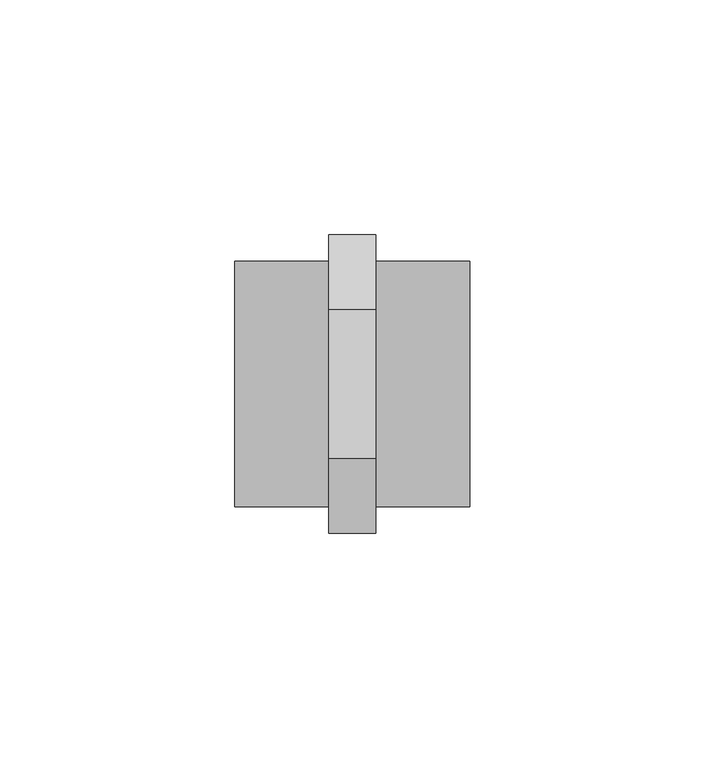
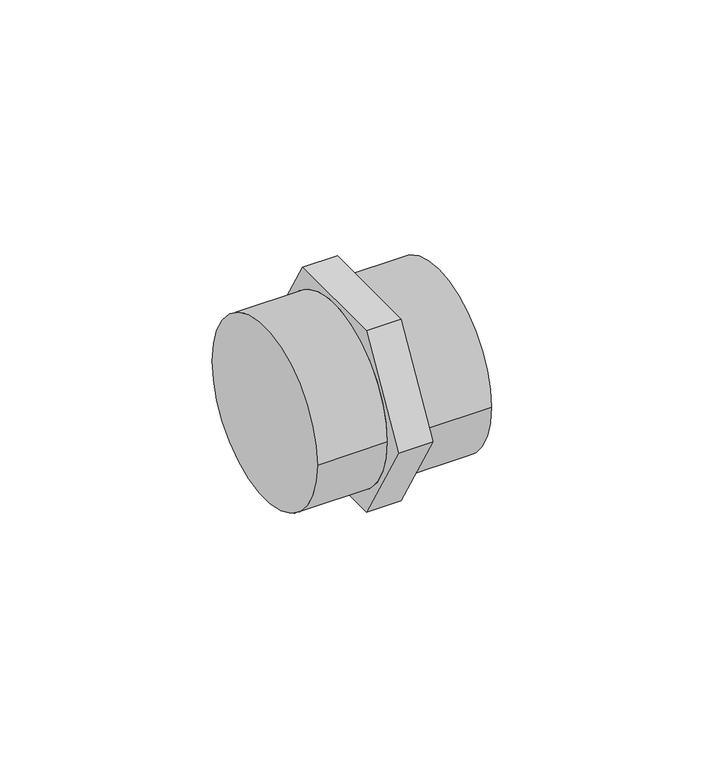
"""IFC4 building model written with IfcOpenShell, lengths in millimetres: pipe fitting geometry, 01011005 : Uniao Simples."""

import ifcopenshell
import ifcopenshell.guid

model = None  # the IFC model being written
_history = None  # IfcOwnerHistory: only IFC2X3 demands one
_inside = {}  # id of a spatial element -> (the spatial element, [elements in it])
_under = {}  # id of a project, library or spatial element -> (it, [spatial elements below it])
_declared = {}  # id of a project -> (the project, [libraries it declares])
_typed = {}  # id of a type object -> (the type object, [elements of that type])
_made_of = {}  # id of a material, layer set ... -> (it, [elements and type objects made of it])


def new_model(schema):
    """Start an empty IFC model of exactly this schema.

    Asked for "IFC4X3", IfcOpenShell would pick the latest addendum, in which some entities
    have other attributes; the version numbers below select the first issue.
    IFC2X3 requires an IfcOwnerHistory on every rooted entity: one is made here for all.
    """
    global model, _history
    if schema == "IFC4X3":
        model = ifcopenshell.file(schema_version=(4, 3, 0, 0))
    else:
        model = ifcopenshell.file(schema=schema)
    _inside.clear()
    _under.clear()
    _declared.clear()
    _typed.clear()
    _made_of.clear()
    _history = None
    if model.schema == "IFC2X3":
        org = make("IfcOrganization", Name="unknown")
        user = make(
            "IfcPersonAndOrganization",
            ThePerson=make("IfcPerson", FamilyName="unknown"),
            TheOrganization=org,
        )
        app = make(
            "IfcApplication",
            ApplicationDeveloper=org,
            Version="unknown",
            ApplicationFullName="unknown",
            ApplicationIdentifier="unknown",
        )
        _history = make(
            "IfcOwnerHistory",
            OwningUser=user,
            OwningApplication=app,
            ChangeAction="ADDED",
            CreationDate=0,
        )
    return model


def make(cls, **values):
    """One entity of the class cls with the attributes given. An attribute that is None is left unset."""
    return model.create_entity(
        cls, **{name: value for name, value in values.items() if value is not None}
    )


def rooted(cls, **values):
    """An entity with a GlobalId (a new one), such as an element, a storey or a relation."""
    return make(cls, GlobalId=ifcopenshell.guid.new(), OwnerHistory=_history, **values)


def si_unit(unit_type, name, prefix=None):
    """IfcSIUnit, for example si_unit("LENGTHUNIT", "METRE", prefix="MILLI")."""
    return make("IfcSIUnit", UnitType=unit_type, Prefix=prefix, Name=name)


def assignment(units):
    """IfcUnitAssignment: the units of a project."""
    return None if units is None else make("IfcUnitAssignment", Units=units)


def point(xyz):
    """IfcCartesianPoint."""
    return None if xyz is None else make("IfcCartesianPoint", Coordinates=xyz)


def direction(xyz):
    """IfcDirection."""
    return None if xyz is None else make("IfcDirection", DirectionRatios=xyz)


def frame(location, z_axis=None, x_axis=None):
    """IfcAxis2Placement3D, a coordinate frame: its origin and axes. An axis left out is left unset."""
    return make(
        "IfcAxis2Placement3D",
        Location=point(location),
        Axis=direction(z_axis),
        RefDirection=direction(x_axis),
    )


def origin():
    """The frame at (0, 0, 0) with its axes left unset."""
    return frame((0.0, 0.0, 0.0))


def place(relative_to, where):
    """IfcLocalPlacement: puts the frame where relative to a parent placement (None: the world)."""
    return make(
        "IfcLocalPlacement", PlacementRelTo=relative_to, RelativePlacement=where
    )


def context(
    kind, dimensions, precision=None, world=None, true_north=None, identifier=None
):
    """IfcGeometricRepresentationContext, for example the 3D "Model" context."""
    return make(
        "IfcGeometricRepresentationContext",
        ContextIdentifier=identifier,
        ContextType=kind,
        CoordinateSpaceDimension=dimensions,
        Precision=precision,
        WorldCoordinateSystem=world,
        TrueNorth=true_north,
    )


def project(units=None, contexts=None):
    """IfcProject with its units and contexts."""
    return rooted(
        "IfcProject",
        Name="project",
        RepresentationContexts=contexts,
        UnitsInContext=assignment(units),
    )


def spatial(cls, under=None, at=None, **own):
    """A site, building, storey or space (cls), placed at a placement, below another one or the project."""
    s = rooted(cls, ObjectPlacement=at, **own)
    if under is not None:
        _under.setdefault(under.id(), (under, []))[1].append(s)
    return s


def circle_curve(where, radius):
    """IfcCircle in the frame where."""
    return make("IfcCircle", Position=where, Radius=radius)


def shape(context_of_items, identifier, shape_type, items):
    """IfcShapeRepresentation: the items that make up one representation, for example the "Body"."""
    return make(
        "IfcShapeRepresentation",
        ContextOfItems=context_of_items,
        RepresentationIdentifier=identifier,
        RepresentationType=shape_type,
        Items=items,
    )


def source(mapping_origin, context_of_items, identifier, shape_type, items):
    """IfcRepresentationMap: a shape defined once, which mapped items show again and again."""
    return make(
        "IfcRepresentationMap",
        MappingOrigin=mapping_origin,
        MappedRepresentation=shape(context_of_items, identifier, shape_type, items),
    )


def transform(
    local_origin,
    x_axis=None,
    y_axis=None,
    z_axis=None,
    scale=None,
    scale2=None,
    scale3=None,
    uniform=True,
):
    """IfcCartesianTransformationOperator3D, or its non-uniform kind. x_axis, y_axis, z_axis: its Axis1, 2, 3."""
    if uniform:
        return make(
            "IfcCartesianTransformationOperator3D",
            Axis1=direction(x_axis),
            Axis2=direction(y_axis),
            LocalOrigin=point(local_origin),
            Scale=scale,
            Axis3=direction(z_axis),
        )
    return make(
        "IfcCartesianTransformationOperator3DnonUniform",
        Axis1=direction(x_axis),
        Axis2=direction(y_axis),
        LocalOrigin=point(local_origin),
        Scale=scale,
        Axis3=direction(z_axis),
        Scale2=scale2,
        Scale3=scale3,
    )


def mapped(mapping_source, mapping_target):
    """IfcMappedItem: shows the shape of a source again, moved by a transform."""
    return make(
        "IfcMappedItem", MappingSource=mapping_source, MappingTarget=mapping_target
    )


def made_of(thing, what):
    """Note that an element or type object is made of a material, layer set ...; save() writes the relation."""
    if what is not None:
        _made_of.setdefault(what.id(), (what, []))[1].append(thing)
    return thing


def element(
    cls,
    number,
    at=None,
    inside=None,
    cuts=None,
    type_object=None,
    material=None,
    context=None,
    identifier="Body",
    shape_type=None,
    held_by="IfcProductDefinitionShape",
    body=None,
    shapes=None,
    **own,
):
    """One element of the class cls, such as IfcWall. Its Tag is "e" and its number.

    at: its placement. inside: the storey or other place that contains it. cuts: it is an
    opening in that element (IfcRelVoidsElement). A single representation is given by context,
    identifier, shape_type and body (its items); several are given by shapes. held_by: the class
    of the entity that holds the representations. save() writes the other relations.
    """
    e = rooted(cls, Tag="e%d" % number, ObjectPlacement=at, **own)
    if body is not None:
        shapes = [shape(context, identifier, shape_type, body)]
    if shapes is not None:
        e.Representation = make(held_by, Representations=shapes)
    if inside is not None:
        _inside.setdefault(inside.id(), (inside, []))[1].append(e)
    if cuts is not None:
        rooted(
            "IfcRelVoidsElement", RelatingBuildingElement=cuts, RelatedOpeningElement=e
        )
    if type_object is not None:
        _typed.setdefault(type_object.id(), (type_object, []))[1].append(e)
    return made_of(e, material)


def aggregate(whole, parts):
    """IfcRelAggregates: a whole, such as a stair, and the parts it consists of."""
    return rooted("IfcRelAggregates", RelatingObject=whole, RelatedObjects=parts)


def save(model, path):
    """Write the relations noted so far, then the file.

    IfcRelAggregates (storeys below a building ...), IfcRelContainedInSpatialStructure (elements
    in a storey), IfcRelDefinesByType, IfcRelAssociatesMaterial and IfcRelDeclares: one each for
    every whole, place, type object, material and project.
    """
    for whole, parts in _under.values():
        aggregate(whole, parts)
    for where, things in _inside.values():
        rooted(
            "IfcRelContainedInSpatialStructure",
            RelatedElements=things,
            RelatingStructure=where,
        )
    for kind, things in _typed.values():
        rooted("IfcRelDefinesByType", RelatedObjects=things, RelatingType=kind)
    for what, things in _made_of.values():
        rooted("IfcRelAssociatesMaterial", RelatedObjects=things, RelatingMaterial=what)
    for by, libraries in _declared.values():
        rooted("IfcRelDeclares", RelatingContext=by, RelatedDefinitions=libraries)
    model.write(path)


def plane_surface(at):
    """IfcPlane: the flat surface through the origin of the frame at, square to its z axis."""
    return make("IfcPlane", Position=at)


def cylinder_surface(at, radius):
    """IfcCylindricalSurface: all points at the distance radius from the z axis of the frame at."""
    return make("IfcCylindricalSurface", Position=at, Radius=radius)


def advanced_brep(points, edges, surfaces, faces):
    """IfcAdvancedBrep: a solid bounded by faces that lie on surfaces and meet in shared edges.

    An edge is (start, end): straight between two places in points (the first is 0);
    or (start, end, curve); or (start, end, curve, False) where it runs against its curve.
    A face is (place in surfaces, loops), or (place, loops, False) where it looks against
    its surface's normal. A loop lists edges by number (the first is 1), with a minus sign
    where the edge is run from its end to its start. The first loop is the outer one.
    """
    corners = [point(p) for p in points]
    vertices = [make("IfcVertexPoint", VertexGeometry=c) for c in corners]
    made = []
    for start, end, *more in edges:
        made.append(
            make(
                "IfcEdgeCurve",
                EdgeStart=vertices[start],
                EdgeEnd=vertices[end],
                EdgeGeometry=more[0] if more else make("IfcPolyline", Points=[corners[start], corners[end]]),
                SameSense=more[1] if len(more) > 1 else True,
            )
        )
    hull = []
    for where, loops, *sense in faces:
        bounds = []
        for j, loop in enumerate(loops):
            ring = [make("IfcOrientedEdge", EdgeElement=made[abs(k) - 1], Orientation=k > 0) for k in loop]
            bounds.append(
                make(
                    "IfcFaceOuterBound" if j == 0 else "IfcFaceBound",
                    Bound=make("IfcEdgeLoop", EdgeList=ring),
                    Orientation=True,
                )
            )
        hull.append(make("IfcAdvancedFace", Bounds=bounds, FaceSurface=surfaces[where], SameSense=sense[0] if sense else True))
    return make("IfcAdvancedBrep", Outer=make("IfcClosedShell", CfsFaces=hull))


def pipe_fitting_c62074b1(model_context):
    return source(origin(), model_context, "Body", "AdvancedBrep", [
        advanced_brep(
        [(5.0, -15.8771324, 27.5), (5.0, -31.7542648, 0.0), (5.0, -15.8771324, -27.5), (5.0, 15.8771324, -27.5), (5.0, 31.7542648, 0.0), (5.0, 15.8771324, 27.5), (5.0, -26.125, 0.0), (5.0, 26.125, 0.0), (-5.0, -15.8771324, 27.5), (-5.0, 15.8771324, 27.5), (-5.0, 31.7542648, 0.0), (-5.0, 15.8771324, -27.5), (-5.0, -15.8771324, -27.5), (-5.0, -31.7542648, 0.0), (-5.0, 26.125, 0.0), (-5.0, -26.125, 0.0), (-25.0, -26.125, 0.0), (-25.0, 26.125, 0.0), (25.0, -26.125, 0.0), (25.0, 26.125, 0.0)],
        [
            (0, 1),
            (1, 2),
            (2, 3),
            (3, 4),
            (4, 5),
            (5, 0),
            (6, 7, circle_curve(frame((5.0, 0.0, 0.0), z_axis=(-1.0, 0.0, 0.0), x_axis=(0.0, 1.0, 0.0)), 26.125)),
            (7, 6, circle_curve(frame((5.0, 0.0, 0.0), z_axis=(-1.0, 0.0, 0.0), x_axis=(0.0, 1.0, 0.0)), 26.125)),
            (8, 9),
            (9, 10),
            (10, 11),
            (11, 12),
            (12, 13),
            (13, 8),
            (14, 15, circle_curve(frame((-5.0, 0.0, 0.0), z_axis=(1.0, 0.0, 0.0), x_axis=(0.0, 1.0, 0.0)), 26.125)),
            (15, 14, circle_curve(frame((-5.0, 0.0, 0.0), z_axis=(1.0, 0.0, 0.0), x_axis=(0.0, 1.0, 0.0)), 26.125)),
            (0, 8),
            (13, 1),
            (12, 2),
            (11, 3),
            (10, 4),
            (9, 5),
            (16, 17, circle_curve(frame((-25.0, 0.0, 0.0), z_axis=(-1.0, 0.0, 0.0), x_axis=(0.0, 1.0, 0.0)), 26.125)),
            (17, 16, circle_curve(frame((-25.0, 0.0, 0.0), z_axis=(-1.0, 0.0, 0.0), x_axis=(0.0, 1.0, 0.0)), 26.125)),
            (18, 19, circle_curve(frame((25.0, 0.0, 0.0), z_axis=(1.0, 0.0, 0.0), x_axis=(0.0, 1.0, 0.0)), 26.125)),
            (19, 18, circle_curve(frame((25.0, 0.0, 0.0), z_axis=(1.0, 0.0, 0.0), x_axis=(0.0, 1.0, 0.0)), 26.125)),
            (16, 15),
            (14, 17),
            (19, 7),
            (6, 18),
        ],
        [
            plane_surface(frame((5.0, -15.8771324, 27.5), z_axis=(1.0, 0.0, 0.0), x_axis=(0.0, -0.5000000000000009, -0.8660254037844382))),
            plane_surface(frame((-5.0, -15.8771324, 27.5), z_axis=(-1.0, 0.0, 0.0), x_axis=(0.0, 0.5000000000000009, 0.8660254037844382))),
            plane_surface(frame((5.0, -15.8771324, 27.5), z_axis=(0.0, -0.8660254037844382, 0.5000000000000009), x_axis=(-1.0, 0.0, 0.0))),
            plane_surface(frame((5.0, -31.7542648, 0.0), z_axis=(0.0, -0.8660254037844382, -0.5000000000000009), x_axis=(-1.0, 0.0, 0.0))),
            plane_surface(frame((5.0, -15.8771324, -27.5), z_axis=(0.0, 0.0, -1.0), x_axis=(-1.0, 0.0, 0.0))),
            plane_surface(frame((5.0, 15.8771324, -27.5), z_axis=(0.0, 0.8660254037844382, -0.500000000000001), x_axis=(-1.0, 0.0, 0.0))),
            plane_surface(frame((5.0, 31.7542648, 0.0), z_axis=(0.0, 0.8660254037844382, 0.500000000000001), x_axis=(-1.0, 0.0, 0.0))),
            plane_surface(frame((5.0, 15.8771324, 27.5), z_axis=(0.0, 0.0, 1.0), x_axis=(-1.0, 0.0, 0.0))),
            plane_surface(frame((-25.0, 0.0, 0.0), z_axis=(-1.0, 0.0, 0.0), x_axis=(0.0, 0.0, 1.0))),
            plane_surface(frame((25.0, 0.0, 0.0), z_axis=(1.0, 0.0, 0.0), x_axis=(0.0, 0.0, 1.0))),
            cylinder_surface(frame((-25.0, 0.0, 0.0), z_axis=(-1.0, 0.0, 0.0), x_axis=(0.0, 1.0, 0.0)), 26.125),
        ],
        [
            (0, [[1, 2, 3, 4, 5, 6], [7, 8]]),
            (1, [[9, 10, 11, 12, 13, 14], [15, 16]]),
            (2, [[-1, 17, -14, 18]]),
            (3, [[-2, -18, -13, 19]]),
            (4, [[-3, -19, -12, 20]]),
            (5, [[-4, -20, -11, 21]]),
            (6, [[-5, -21, -10, 22]]),
            (7, [[-6, -22, -9, -17]]),
            (8, [[23, 24]]),
            (9, [[25, 26]]),
            (10, [[-23, 27, -15, 28]]),
            (10, [[-26, 29, -7, 30]]),
            (10, [[-24, -28, -16, -27]]),
            (10, [[-25, -30, -8, -29]]),
        ],
    ),
    ])


if __name__ == "__main__":
    model = new_model("IFC4")
    model_context = context("Model", 3, world=origin())
    ifc_project = project(units=[si_unit("LENGTHUNIT", "METRE", prefix="MILLI")], contexts=[model_context])
    site = spatial("IfcSite", under=ifc_project)
    building = spatial("IfcBuilding", under=site)
    placement = place(None, origin())
    pipe_fitting_shape = pipe_fitting_c62074b1(model_context)
    element("IfcPipeFitting", 1, ObjectType="01011005 : Uniao Simples", at=placement, inside=building, context=model_context, shape_type="MappedRepresentation", body=[
        mapped(pipe_fitting_shape, transform((0.0, 0.0, 0.0), x_axis=(1.0, 0.0, 0.0), y_axis=(0.0, 1.0, 0.0), z_axis=(0.0, 0.0, 1.0))),
    ])
    save(model, "model.ifc")
